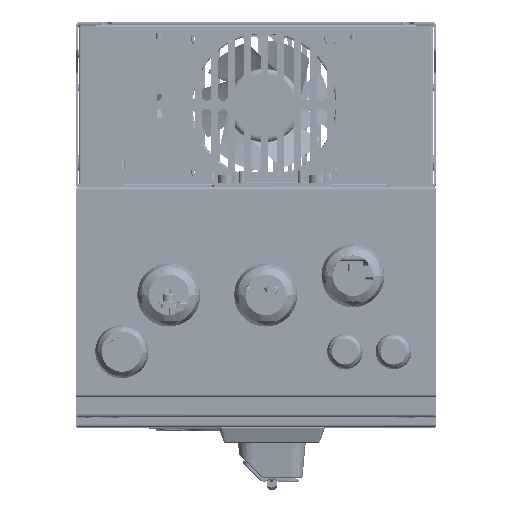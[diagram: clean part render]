
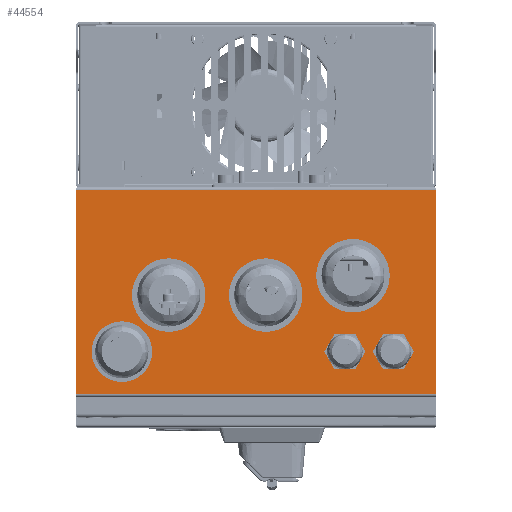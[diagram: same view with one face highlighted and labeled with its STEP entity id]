
A CAD part, top view. The second image highlights one B-rep face of the part: STEP entity #44554.
In plain terms, the highlighted planar face has unit normal (0, 0, 1) as drawn and (-1, 0, 0) by its records, which use the part's own axes.
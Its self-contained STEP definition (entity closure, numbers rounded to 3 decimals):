
#39306=CARTESIAN_POINT('',(-223.5,1.7,-111.5));
#39308=DIRECTION('',(0.,0.,1.));
#39309=VECTOR('',#39308,223.);
#39310=CARTESIAN_POINT('',(-223.5,1.7,-111.5));
#39311=LINE('',#39310,#39309);
#39312=CARTESIAN_POINT('',(-223.5,1.7,111.5));
#39748=DIRECTION('',(0.,0.,-1.));
#39749=VECTOR('',#39748,223.);
#39750=CARTESIAN_POINT('',(-223.5,128.3,111.5));
#39751=LINE('',#39750,#39749);
#39752=CARTESIAN_POINT('',(-223.5,67.,-6.));
#39753=DIRECTION('',(-1.,0.,0.));
#39754=DIRECTION('',(0.,0.,-1.));
#39755=AXIS2_PLACEMENT_3D('',#39752,#39753,#39754);
#39757=CARTESIAN_POINT('',(-223.5,67.,-6.));
#39758=DIRECTION('',(-1.,0.,0.));
#39759=DIRECTION('',(0.,0.,1.));
#39760=AXIS2_PLACEMENT_3D('',#39757,#39758,#39759);
#39762=CARTESIAN_POINT('',(-223.5,55.,-60.));
#39763=DIRECTION('',(-1.,0.,0.));
#39764=DIRECTION('',(0.,0.,-1.));
#39765=AXIS2_PLACEMENT_3D('',#39762,#39763,#39764);
#39767=CARTESIAN_POINT('',(-223.5,55.,-60.));
#39768=DIRECTION('',(-1.,0.,0.));
#39769=DIRECTION('',(0.,0.,1.));
#39770=AXIS2_PLACEMENT_3D('',#39767,#39768,#39769);
#39772=CARTESIAN_POINT('',(-223.5,102.,-55.));
#39773=DIRECTION('',(-1.,0.,0.));
#39774=DIRECTION('',(0.,0.,-1.));
#39775=AXIS2_PLACEMENT_3D('',#39772,#39773,#39774);
#39777=CARTESIAN_POINT('',(-223.5,102.,-55.));
#39778=DIRECTION('',(-1.,0.,0.));
#39779=DIRECTION('',(0.,0.,1.));
#39780=AXIS2_PLACEMENT_3D('',#39777,#39778,#39779);
#39782=CARTESIAN_POINT('',(-223.5,102.,-85.));
#39783=DIRECTION('',(-1.,0.,0.));
#39784=DIRECTION('',(0.,0.,-1.));
#39785=AXIS2_PLACEMENT_3D('',#39782,#39783,#39784);
#39787=CARTESIAN_POINT('',(-223.5,102.,-85.));
#39788=DIRECTION('',(-1.,0.,0.));
#39789=DIRECTION('',(0.,0.,1.));
#39790=AXIS2_PLACEMENT_3D('',#39787,#39788,#39789);
#39792=CARTESIAN_POINT('',(-223.5,102.,83.));
#39793=DIRECTION('',(-1.,0.,0.));
#39794=DIRECTION('',(0.,0.,-1.));
#39795=AXIS2_PLACEMENT_3D('',#39792,#39793,#39794);
#39797=CARTESIAN_POINT('',(-223.5,102.,83.));
#39798=DIRECTION('',(-1.,0.,0.));
#39799=DIRECTION('',(0.,0.,1.));
#39800=AXIS2_PLACEMENT_3D('',#39797,#39798,#39799);
#39802=CARTESIAN_POINT('',(-223.5,67.,54.));
#39803=DIRECTION('',(-1.,0.,0.));
#39804=DIRECTION('',(0.,0.,-1.));
#39805=AXIS2_PLACEMENT_3D('',#39802,#39803,#39804);
#39807=CARTESIAN_POINT('',(-223.5,67.,54.));
#39808=DIRECTION('',(-1.,0.,0.));
#39809=DIRECTION('',(0.,0.,1.));
#39810=AXIS2_PLACEMENT_3D('',#39807,#39808,#39809);
#39812=DIRECTION('',(0.,-1.,0.));
#39813=VECTOR('',#39812,126.6);
#39814=CARTESIAN_POINT('',(-223.5,128.3,-111.5));
#39815=LINE('',#39814,#39813);
#39842=DIRECTION('',(0.,1.,0.));
#39843=VECTOR('',#39842,126.6);
#39844=CARTESIAN_POINT('',(-223.5,1.7,111.5));
#39845=LINE('',#39844,#39843);
#42214=VERTEX_POINT('',#39312);
#42219=VERTEX_POINT('',#39306);
#42341=CARTESIAN_POINT('',(-223.5,128.3,111.5));
#42342=VERTEX_POINT('',#42341);
#42343=CARTESIAN_POINT('',(-223.5,128.3,-111.5));
#42344=VERTEX_POINT('',#42343);
#42345=CARTESIAN_POINT('',(-223.5,67.,-21.25));
#42346=CARTESIAN_POINT('',(-223.5,67.,9.25));
#42347=VERTEX_POINT('',#42345);
#42348=VERTEX_POINT('',#42346);
#42349=CARTESIAN_POINT('',(-223.5,55.,-75.25));
#42350=CARTESIAN_POINT('',(-223.5,55.,-44.75));
#42351=VERTEX_POINT('',#42349);
#42352=VERTEX_POINT('',#42350);
#42353=CARTESIAN_POINT('',(-223.5,102.,-63.25));
#42354=CARTESIAN_POINT('',(-223.5,102.,-46.75));
#42355=VERTEX_POINT('',#42353);
#42356=VERTEX_POINT('',#42354);
#42357=CARTESIAN_POINT('',(-223.5,102.,-93.25));
#42358=CARTESIAN_POINT('',(-223.5,102.,-76.75));
#42359=VERTEX_POINT('',#42357);
#42360=VERTEX_POINT('',#42358);
#42361=CARTESIAN_POINT('',(-223.5,102.,70.25));
#42362=CARTESIAN_POINT('',(-223.5,102.,95.75));
#42363=VERTEX_POINT('',#42361);
#42364=VERTEX_POINT('',#42362);
#42365=CARTESIAN_POINT('',(-223.5,67.,38.75));
#42366=CARTESIAN_POINT('',(-223.5,67.,69.25));
#42367=VERTEX_POINT('',#42365);
#42368=VERTEX_POINT('',#42366);
#44505=CARTESIAN_POINT('',(-223.5,0.,110.3));
#44506=DIRECTION('',(-1.,0.,0.));
#44507=DIRECTION('',(0.,0.,1.));
#44508=AXIS2_PLACEMENT_3D('',#44505,#44506,#44507);
#44509=PLANE('',#44508);
#44510=ORIENTED_EDGE('',*,*,#43874,.F.);
#44512=ORIENTED_EDGE('',*,*,#44511,.F.);
#44513=ORIENTED_EDGE('',*,*,#44498,.F.);
#44515=ORIENTED_EDGE('',*,*,#44514,.F.);
#44516=EDGE_LOOP('',(#44510,#44512,#44513,#44515));
#44517=FACE_OUTER_BOUND('',#44516,.F.);
#44519=ORIENTED_EDGE('',*,*,#44518,.T.);
#44521=ORIENTED_EDGE('',*,*,#44520,.T.);
#44522=EDGE_LOOP('',(#44519,#44521));
#44523=FACE_BOUND('',#44522,.F.);
#44525=ORIENTED_EDGE('',*,*,#44524,.T.);
#44527=ORIENTED_EDGE('',*,*,#44526,.T.);
#44528=EDGE_LOOP('',(#44525,#44527));
#44529=FACE_BOUND('',#44528,.F.);
#44531=ORIENTED_EDGE('',*,*,#44530,.T.);
#44533=ORIENTED_EDGE('',*,*,#44532,.T.);
#44534=EDGE_LOOP('',(#44531,#44533));
#44535=FACE_BOUND('',#44534,.F.);
#44537=ORIENTED_EDGE('',*,*,#44536,.T.);
#44539=ORIENTED_EDGE('',*,*,#44538,.T.);
#44540=EDGE_LOOP('',(#44537,#44539));
#44541=FACE_BOUND('',#44540,.F.);
#44543=ORIENTED_EDGE('',*,*,#44542,.T.);
#44545=ORIENTED_EDGE('',*,*,#44544,.T.);
#44546=EDGE_LOOP('',(#44543,#44545));
#44547=FACE_BOUND('',#44546,.F.);
#44549=ORIENTED_EDGE('',*,*,#44548,.T.);
#44551=ORIENTED_EDGE('',*,*,#44550,.T.);
#44552=EDGE_LOOP('',(#44549,#44551));
#44553=FACE_BOUND('',#44552,.F.);
#44554=ADVANCED_FACE('',(#44517,#44523,#44529,#44535,#44541,#44547,#44553),
#44509,.T.);
#39756=CIRCLE('',#39755,15.25);
#39761=CIRCLE('',#39760,15.25);
#39766=CIRCLE('',#39765,15.25);
#39771=CIRCLE('',#39770,15.25);
#39776=CIRCLE('',#39775,8.25);
#39781=CIRCLE('',#39780,8.25);
#39786=CIRCLE('',#39785,8.25);
#39791=CIRCLE('',#39790,8.25);
#39796=CIRCLE('',#39795,12.75);
#39801=CIRCLE('',#39800,12.75);
#39806=CIRCLE('',#39805,15.25);
#39811=CIRCLE('',#39810,15.25);
#43874=EDGE_CURVE('',#42219,#42214,#39311,.T.);
#44498=EDGE_CURVE('',#42342,#42344,#39751,.T.);
#44511=EDGE_CURVE('',#42344,#42219,#39815,.T.);
#44514=EDGE_CURVE('',#42214,#42342,#39845,.T.);
#44518=EDGE_CURVE('',#42347,#42348,#39756,.T.);
#44520=EDGE_CURVE('',#42348,#42347,#39761,.T.);
#44524=EDGE_CURVE('',#42351,#42352,#39766,.T.);
#44526=EDGE_CURVE('',#42352,#42351,#39771,.T.);
#44530=EDGE_CURVE('',#42355,#42356,#39776,.T.);
#44532=EDGE_CURVE('',#42356,#42355,#39781,.T.);
#44536=EDGE_CURVE('',#42359,#42360,#39786,.T.);
#44538=EDGE_CURVE('',#42360,#42359,#39791,.T.);
#44542=EDGE_CURVE('',#42363,#42364,#39796,.T.);
#44544=EDGE_CURVE('',#42364,#42363,#39801,.T.);
#44548=EDGE_CURVE('',#42367,#42368,#39806,.T.);
#44550=EDGE_CURVE('',#42368,#42367,#39811,.T.);
